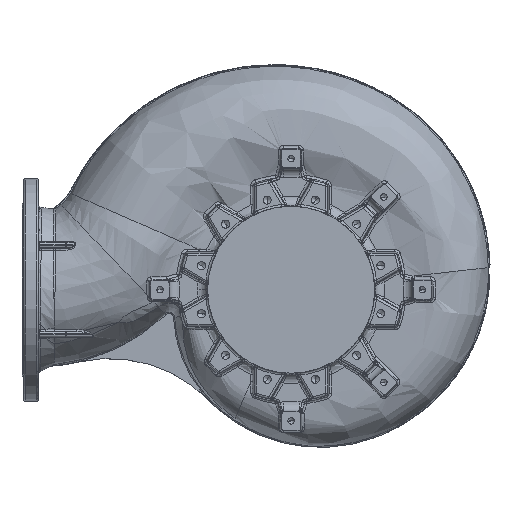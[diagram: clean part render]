
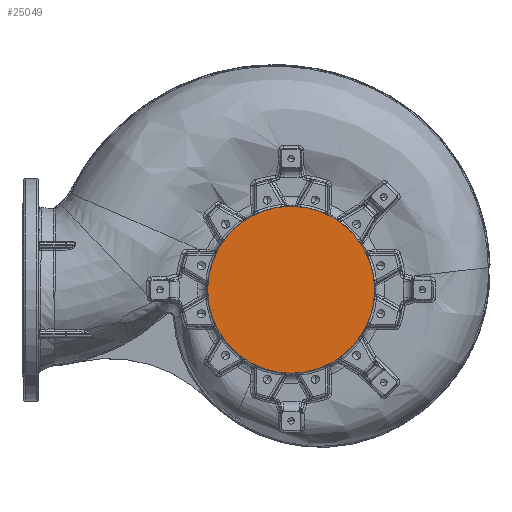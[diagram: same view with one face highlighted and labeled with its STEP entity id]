
A CAD part, front view. The second image highlights one B-rep face of the part: STEP entity #25049.
In plain terms, the highlighted planar face has unit normal (0, -1, 0).
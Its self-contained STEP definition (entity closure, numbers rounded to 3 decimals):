
#1506 = EDGE_CURVE ( 'NONE', #108045, #26482, #77885, .T. ) ;
#8583 = AXIS2_PLACEMENT_3D ( 'NONE', #27105, #121727, #40652 ) ;
#25049 = ADVANCED_FACE ( 'NONE', ( #108913 ), #148101, .F. ) ;
#26482 = VERTEX_POINT ( 'NONE', #37127 ) ;
#27105 = CARTESIAN_POINT ( 'NONE',  ( 0., -623.5, 0. ) ) ;
#37127 = CARTESIAN_POINT ( 'NONE',  ( -180., -623.5, 0. ) ) ;
#40006 = DIRECTION ( 'NONE',  ( 1., 0., 0. ) ) ;
#40652 = DIRECTION ( 'NONE',  ( 1., 0., 0. ) ) ;
#53457 = CARTESIAN_POINT ( 'NONE',  ( 0., -623.5, 0. ) ) ;
#67108 = DIRECTION ( 'NONE',  ( 1., 0., 0. ) ) ;
#77885 = CIRCLE ( 'NONE', #88640, 180. ) ;
#80685 = ORIENTED_EDGE ( 'NONE', *, *, #1506, .F. ) ;
#85387 = CARTESIAN_POINT ( 'NONE',  ( 0., -623.5, 0. ) ) ;
#88640 = AXIS2_PLACEMENT_3D ( 'NONE', #85387, #117560, #40006 ) ;
#103303 = EDGE_CURVE ( 'NONE', #26482, #108045, #122136, .T. ) ;
#108045 = VERTEX_POINT ( 'NONE', #161414 ) ;
#108913 = FACE_OUTER_BOUND ( 'NONE', #170144, .T. ) ;
#115915 = AXIS2_PLACEMENT_3D ( 'NONE', #53457, #147861, #67108 ) ;
#117560 = DIRECTION ( 'NONE',  ( 0., 1., 0. ) ) ;
#121727 = DIRECTION ( 'NONE',  ( 0., 1., 0. ) ) ;
#122136 = CIRCLE ( 'NONE', #115915, 180. ) ;
#147861 = DIRECTION ( 'NONE',  ( 0., 1., 0. ) ) ;
#148101 = PLANE ( 'NONE',  #8583 ) ;
#161392 = ORIENTED_EDGE ( 'NONE', *, *, #103303, .F. ) ;
#161414 = CARTESIAN_POINT ( 'NONE',  ( 180., -623.5, 0. ) ) ;
#170144 = EDGE_LOOP ( 'NONE', ( #80685, #161392 ) ) ;
